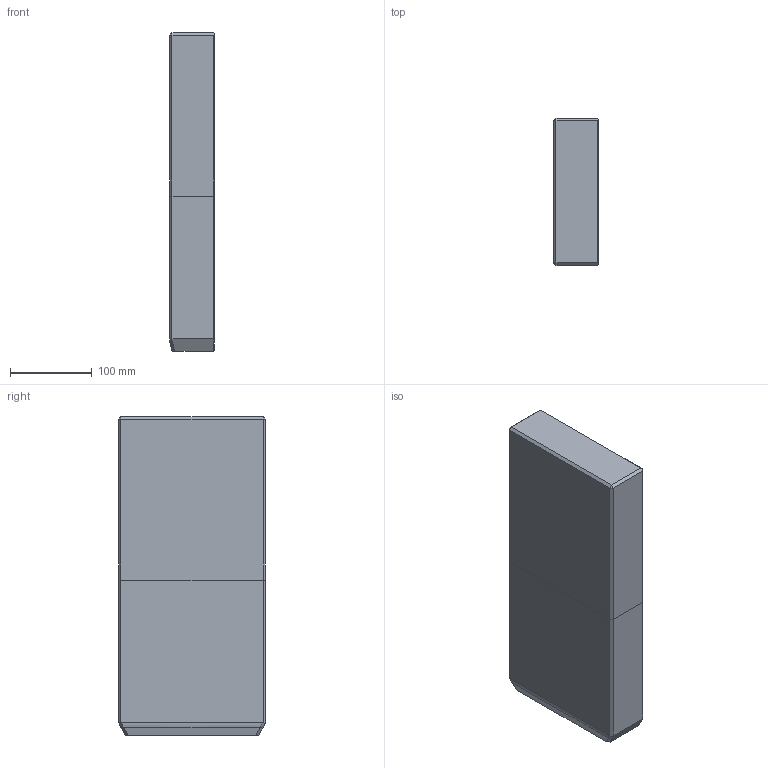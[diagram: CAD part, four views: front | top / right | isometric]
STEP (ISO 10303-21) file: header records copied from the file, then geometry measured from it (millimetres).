
FILE_DESCRIPTION((''),'2;1');
FILE_NAME('','2010-08-30T18:07:47+09:00',('misumi'),(''),'M/STEP i/f 1R2-14','CADmeister v5.1','');
FILE_SCHEMA(('AUTOMOTIVE_DESIGN'));
Length unit declared in the file: millimetre
Products named in the file (1): OGG180-390
Bounding box: 55 x 180 x 390 mm (x, y, z)
Volume: 3841597.1 mm3; surface area: 200190.3 mm2
Topology: 1 solids, 1 shells, 36 faces, 82 edges, 49 vertices
Faces by surface type: plane 28, bspline 5, cylinder 3
Entity records: 1664 total; most frequent: CARTESIAN_POINT 819, ORIENTED_EDGE 164, DIRECTION 134, EDGE_CURVE 82, LINE 62, VECTOR 62, VERTEX_POINT 49, EDGE_LOOP 37
